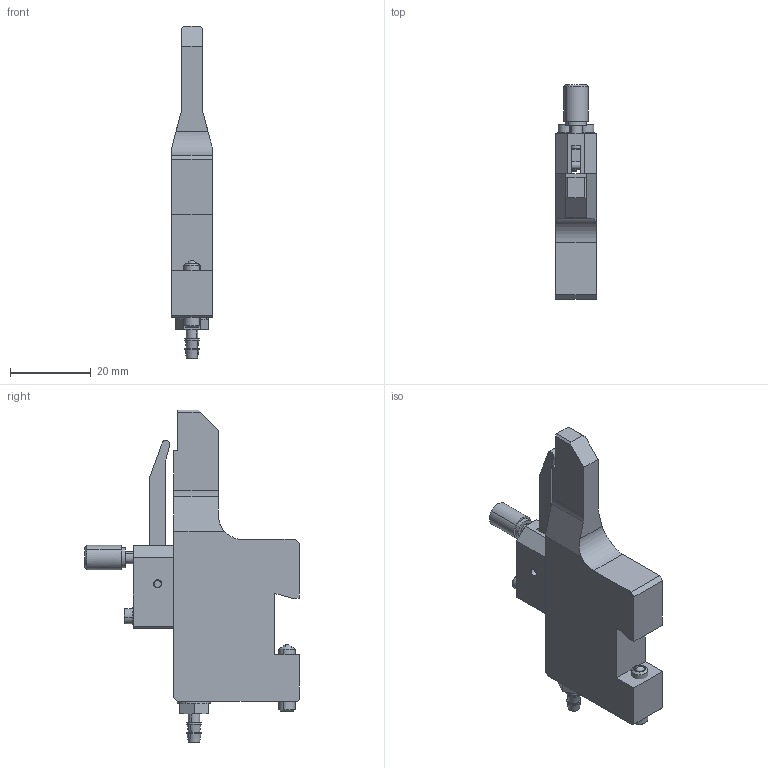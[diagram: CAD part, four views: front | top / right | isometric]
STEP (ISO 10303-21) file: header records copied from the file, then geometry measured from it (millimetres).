
FILE_DESCRIPTION (( 'STEP AP203' ), '1' );
FILE_NAME ('F272-5.STEP', '2022-12-22T06:49:36', ( '' ), ( '' ), 'SwSTEP 2.0', 'SolidWorks 2017', '' );
FILE_SCHEMA (( 'CONFIG_CONTROL_DESIGN' ));
Length unit declared in the file: millimetre
Products named in the file (10): F272-5-prt3; F272-5-prt6; F272-5; F272-5-prt7; F272-5-prt2; F272-5-prt8; F272-5-prt0; F272-5-prt5; F272-5-prt4; F272-5-prt1
Assembly tree (9 placements, depth 2):
  F272-5
    F272-5-prt0
    F272-5-prt1
    F272-5-prt2
    F272-5-prt3
    F272-5-prt4
    F272-5-prt5
    F272-5-prt6
    F272-5-prt7
    F272-5-prt8
Bounding box: 10 x 53 x 82.1 mm (x, y, z)
Volume: 15343.3 mm3; surface area: 8604.3 mm2
Topology: 9 solids, 9 shells, 270 faces, 641 edges, 397 vertices
Faces by surface type: plane 133, cylinder 74, bspline 37, cone 20, torus 4, sphere 2
Entity records: 10275 total; most frequent: CARTESIAN_POINT 3012, DIRECTION 1347, ORIENTED_EDGE 1252, EDGE_CURVE 626, AXIS2_PLACEMENT_3D 496, VERTEX_POINT 394, VECTOR 355, LINE 355
